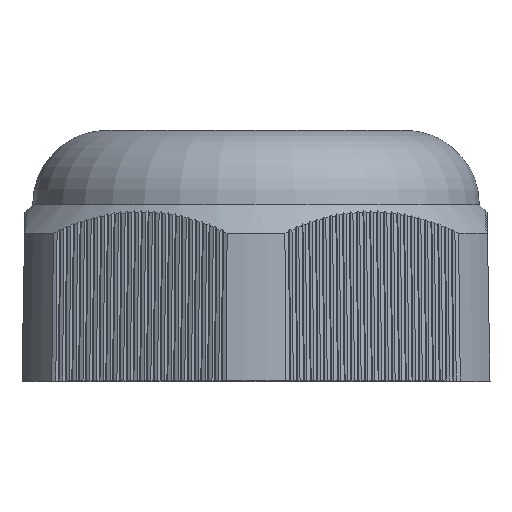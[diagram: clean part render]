
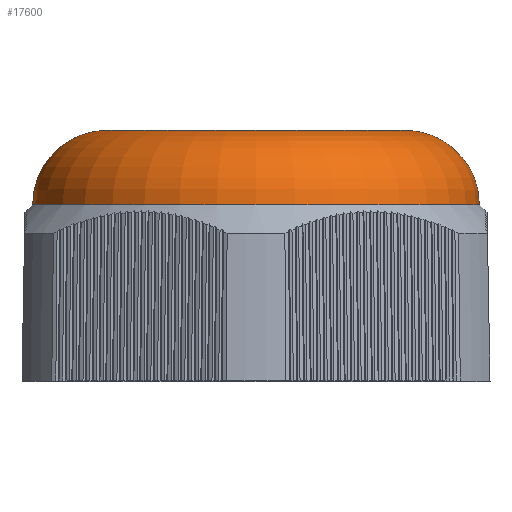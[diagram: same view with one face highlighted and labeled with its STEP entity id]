
A CAD part, top view. The second image highlights one B-rep face of the part: STEP entity #17600.
In plain terms, the highlighted toroidal (fillet/blend) face has major radius 19 mm and minor radius 9.5 mm.
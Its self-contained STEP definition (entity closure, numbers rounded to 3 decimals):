
#87 = CARTESIAN_POINT ( 'NONE',  ( 0., 22.5, 0. ) ) ;
#503 = DIRECTION ( 'NONE',  ( 0., -1., 0. ) ) ;
#590 = AXIS2_PLACEMENT_3D ( 'NONE', #14273, #503, #17897 ) ;
#622 = CIRCLE ( 'NONE', #2407, 28.5 ) ;
#2407 = AXIS2_PLACEMENT_3D ( 'NONE', #13318, #4511, #14721 ) ;
#2995 = EDGE_LOOP ( 'NONE', ( #13842 ) ) ;
#3866 = EDGE_CURVE ( 'NONE', #5562, #5562, #11054, .T. ) ;
#4511 = DIRECTION ( 'NONE',  ( 0., -1., 0. ) ) ;
#5562 = VERTEX_POINT ( 'NONE', #8369 ) ;
#5947 = EDGE_CURVE ( 'NONE', #15393, #15393, #622, .T. ) ;
#7960 = FACE_OUTER_BOUND ( 'NONE', #11210, .T. ) ;
#8127 = AXIS2_PLACEMENT_3D ( 'NONE', #87, #15630, #9929 ) ;
#8369 = CARTESIAN_POINT ( 'NONE',  ( 0., 31.985, -19.528 ) ) ;
#9029 = TOROIDAL_SURFACE ( 'NONE', #8127, 19., 9.5 ) ;
#9649 = FACE_OUTER_BOUND ( 'NONE', #2995, .T. ) ;
#9929 = DIRECTION ( 'NONE',  ( 0., 0., -1. ) ) ;
#11054 = CIRCLE ( 'NONE', #590, 19.528 ) ;
#11210 = EDGE_LOOP ( 'NONE', ( #11347 ) ) ;
#11347 = ORIENTED_EDGE ( 'NONE', *, *, #5947, .F. ) ;
#13318 = CARTESIAN_POINT ( 'NONE',  ( 0., 22.5, 0. ) ) ;
#13842 = ORIENTED_EDGE ( 'NONE', *, *, #3866, .T. ) ;
#14273 = CARTESIAN_POINT ( 'NONE',  ( 0., 31.985, 0. ) ) ;
#14721 = DIRECTION ( 'NONE',  ( 0., 0., -1. ) ) ;
#15393 = VERTEX_POINT ( 'NONE', #16708 ) ;
#15630 = DIRECTION ( 'NONE',  ( 0., -1., 0. ) ) ;
#16708 = CARTESIAN_POINT ( 'NONE',  ( 0., 22.5, -28.5 ) ) ;
#17600 = ADVANCED_FACE ( 'NONE', ( #9649, #7960 ), #9029, .T. ) ;
#17897 = DIRECTION ( 'NONE',  ( 0., 0., -1. ) ) ;
